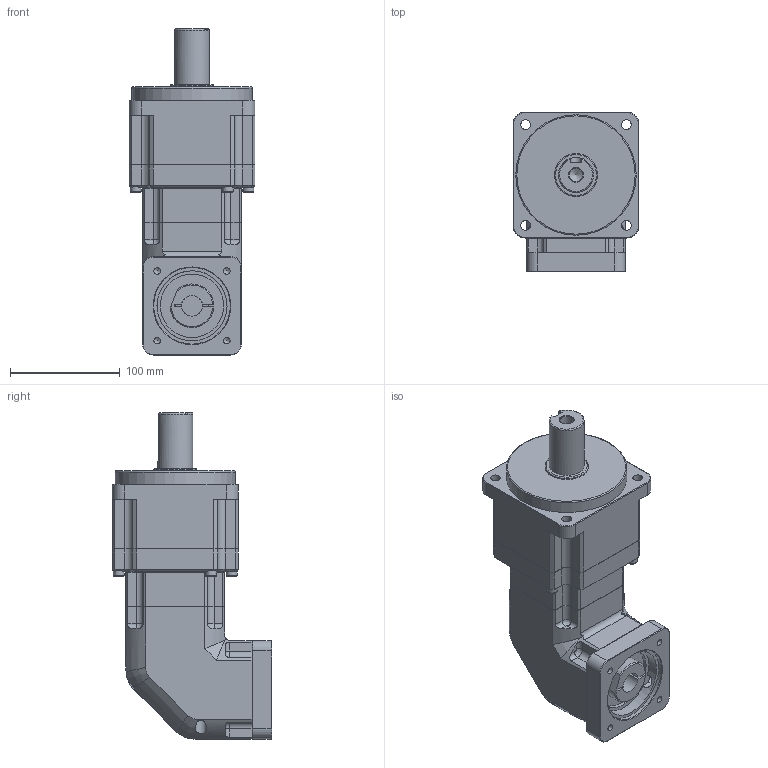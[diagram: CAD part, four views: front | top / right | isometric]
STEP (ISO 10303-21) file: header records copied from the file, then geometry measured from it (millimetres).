
FILE_DESCRIPTION((''),'2;1');
FILE_NAME('C:\Users\nagyu\Desktop\유성감속기-진행자료\도면\3D\2. 홈페이지용 3D 도면 (ipt)\외부도\SPL115\SPL115DS015~050KA\SPL(H)115D (2 STAGE-KEY-A TYPE).stp','2012-07-23T11:23:22',('nagyu'),(''),'Autodesk Inventor 2012','Autodesk Inventor 2012','');
FILE_SCHEMA(('AUTOMOTIVE_DESIGN { 1 0 10303 214 1 1 1 1 }'));
Length unit declared in the file: millimetre
Products named in the file (2): SPL(H)115D (2 STAGE-KEY-A TYPE).iam (대체 세부 수준1); SPL(H)115D (2 STAGE-KEY-A TYPE)_대체_1
Assembly tree (1 placements, depth 2):
  SPL(H)115D (2 STAGE-KEY-A TYPE).iam (대체 세부 수준1)
    SPL(H)115D (2 STAGE-KEY-A TYPE)_대체_1
Bounding box: 115 x 145.6 x 297.9 mm (x, y, z)
Volume: 2191670.8 mm3; surface area: 183756.6 mm2
Topology: 1 solids, 6 shells, 473 faces, 1153 edges, 716 vertices
Faces by surface type: plane 231, cylinder 143, cone 76, bspline 12, torus 11
Full cylindrical faces by diameter (mm): 5.5 x4, 6 x8, 6.6 x4, 9 x4, 9.5 x4, 10 x5, 11 x4, 12 x2, 12.5 x1, 15 x1, 19 x1, 30 x1, 32 x1, 39.5 x1, 54 x1, 58 x1, 62 x2, 64 x1, 68 x1, 70 x1, 110 x1
Entity records: 14290 total; most frequent: CARTESIAN_POINT 3533, DIRECTION 2172, ORIENTED_EDGE 2100, EDGE_CURVE 1050, AXIS2_PLACEMENT_3D 831, VERTEX_POINT 684, EDGE_LOOP 588, VECTOR 510
